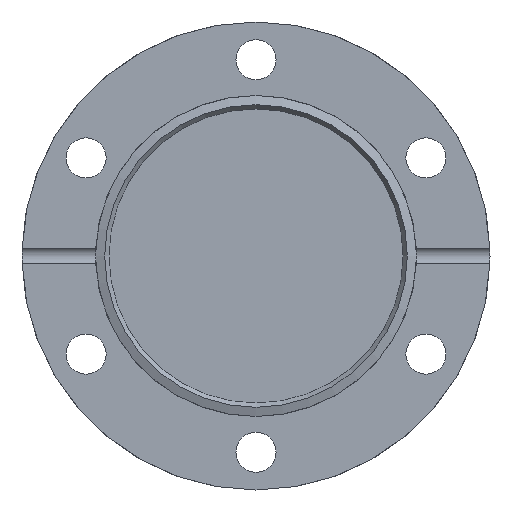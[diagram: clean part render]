
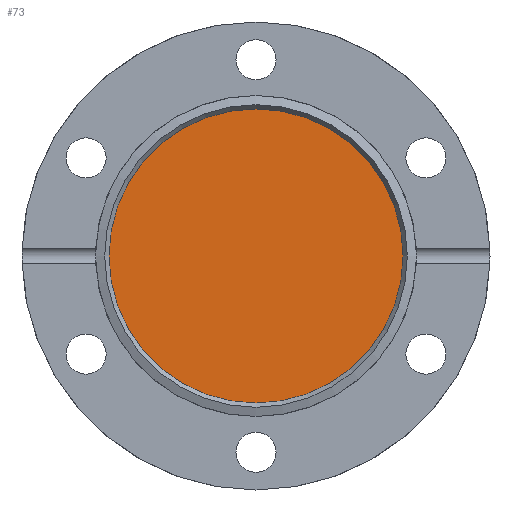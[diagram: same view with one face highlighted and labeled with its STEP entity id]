
A CAD part, left-side view. The second image highlights one B-rep face of the part: STEP entity #73.
In plain terms, the highlighted planar face has unit normal (-1, 0, 0).
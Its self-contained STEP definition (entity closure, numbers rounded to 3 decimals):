
#73 = ADVANCED_FACE( '', ( #153 ), #154, .F. );
#153 = FACE_OUTER_BOUND( '', #237, .T. );
#154 = PLANE( '', #238 );
#237 = EDGE_LOOP( '', ( #325 ) );
#238 = AXIS2_PLACEMENT_3D( '', #326, #327, #328 );
#325 = ORIENTED_EDGE( '', *, *, #412, .T. );
#326 = CARTESIAN_POINT( '', ( -11.4, 0., 22. ) );
#327 = DIRECTION( '', ( 1., 0., 0. ) );
#328 = DIRECTION( '', ( 0., 1., 0. ) );
#412 = EDGE_CURVE( '', #464, #464, #465, .T. );
#464 = VERTEX_POINT( '', #532 );
#465 = CIRCLE( '', #533, 22. );
#532 = CARTESIAN_POINT( '', ( -11.4, 0., 22. ) );
#533 = AXIS2_PLACEMENT_3D( '', #662, #663, #664 );
#662 = CARTESIAN_POINT( '', ( -11.4, 0., 0. ) );
#663 = DIRECTION( '', ( -1., 0., 0. ) );
#664 = DIRECTION( '', ( 0., 0., 1. ) );
